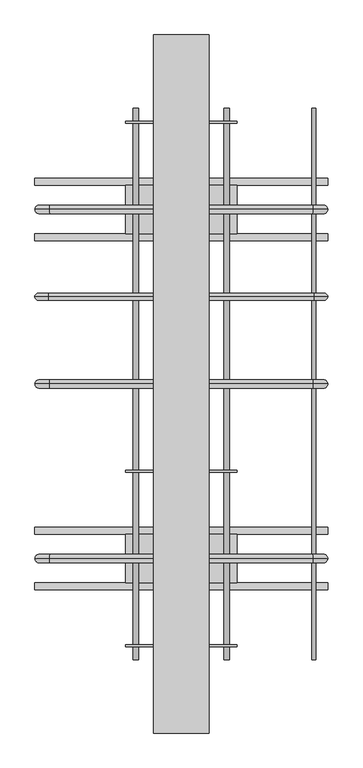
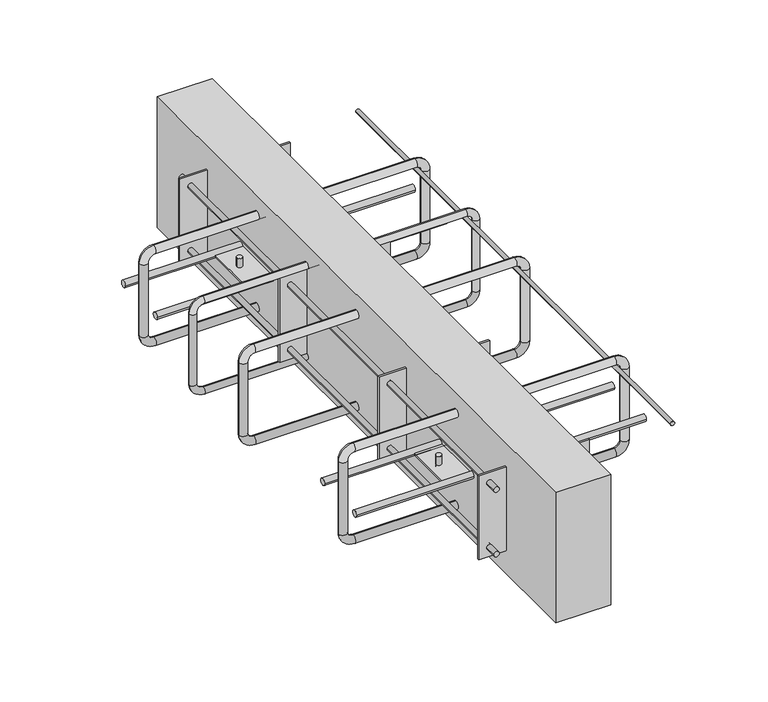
"""IFC4 building model written with IfcOpenShell, lengths in millimetres: proxy geometry, ACINOXplus_Typenreihe_Ux-Ox : OC+ S2."""

from ifc_helpers import new_model, si_unit, point, frame, frame_2d, origin, place, context, project, spatial, polyline, circle_curve, ellipse_curve, trimmed, segment, composite_curve, outline, extrude, source, transform, mapped, element, save
from ifc_brep_helpers import cylinder_surface, revolved_surface, advanced_brep


def generic_models_fb9e2122(model_context):
    return source(origin(), model_context, "Body", "SolidModel", [
        advanced_brep(
        [(189.0, 0.0, -35.5), (189.0, 0.0, -23.5), (-189.0, 0.0, -23.5), (-189.0, 0.0, -35.5), (-198.0, 0.0, -44.5), (-210.0, 0.0, -44.5), (-210.0, 0.0, -155.5), (-198.0, 0.0, -155.5), (-189.0, 0.0, -164.5), (-189.0, 0.0, -176.5), (189.0, 0.0, -176.5), (189.0, 0.0, -164.5), (198.0, 0.0, -155.5), (210.0, 0.0, -155.5), (210.0, 0.0, -44.5), (198.0, 0.0, -44.5)],
        [
            (0, 1, circle_curve(frame((189.0, 0.0, -29.5), z_axis=(-1.0, 0.0, 0.0), x_axis=(0.0, 0.0, -1.0)), 6.0)),
            (1, 2),
            (2, 3, circle_curve(frame((-189.0, 0.0, -29.5), z_axis=(1.0, 0.0, 0.0), x_axis=(0.0, 0.0, -1.0)), 6.0)),
            (3, 0),
            (1, 0, circle_curve(frame((189.0, 0.0, -29.5), z_axis=(-1.0, 0.0, 0.0), x_axis=(0.0, 0.0, -1.0)), 6.0)),
            (3, 2, circle_curve(frame((-189.0, 0.0, -29.5), z_axis=(1.0, 0.0, 0.0), x_axis=(0.0, 0.0, -1.0)), 6.0)),
            (4, 3, circle_curve(frame((-189.0, 0.0, -44.5), z_axis=(0.0, 1.0, 0.0), x_axis=(0.0, 0.0, 1.0)), 9.0)),
            (2, 5, circle_curve(frame((-189.0, 0.0, -44.5), z_axis=(0.0, -1.0, 0.0), x_axis=(0.0, 0.0, 1.0)), 21.0)),
            (5, 4, circle_curve(frame((-204.0, 0.0, -44.5), z_axis=(0.0, 0.0, 1.0), x_axis=(1.0, 0.0, 0.0)), 6.0)),
            (4, 5, circle_curve(frame((-204.0, 0.0, -44.5), z_axis=(0.0, 0.0, 1.0), x_axis=(1.0, 0.0, 0.0)), 6.0)),
            (5, 6),
            (6, 7, circle_curve(frame((-204.0, 0.0, -155.5), z_axis=(0.0, 0.0, 1.0), x_axis=(1.0, 0.0, 0.0)), 6.0)),
            (7, 4),
            (7, 6, circle_curve(frame((-204.0, 0.0, -155.5), z_axis=(0.0, 0.0, 1.0), x_axis=(1.0, 0.0, 0.0)), 6.0)),
            (8, 7, circle_curve(frame((-189.0, 0.0, -155.5), z_axis=(0.0, 1.0, 0.0), x_axis=(-1.0, 0.0, 0.0)), 9.0)),
            (6, 9, circle_curve(frame((-189.0, 0.0, -155.5), z_axis=(0.0, -1.0, 0.0), x_axis=(-1.0, 0.0, 0.0)), 21.0)),
            (9, 8, circle_curve(frame((-189.0, 0.0, -170.5), z_axis=(-1.0, 0.0, 0.0), x_axis=(0.0, 0.0, 1.0)), 6.0)),
            (8, 9, circle_curve(frame((-189.0, 0.0, -170.5), z_axis=(-1.0, 0.0, 0.0), x_axis=(0.0, 0.0, 1.0)), 6.0)),
            (9, 10),
            (10, 11, circle_curve(frame((189.0, 0.0, -170.5), z_axis=(-1.0, 0.0, 0.0), x_axis=(0.0, 0.0, 1.0)), 6.0)),
            (11, 8),
            (11, 10, circle_curve(frame((189.0, 0.0, -170.5), z_axis=(-1.0, 0.0, 0.0), x_axis=(0.0, 0.0, 1.0)), 6.0)),
            (12, 11, circle_curve(frame((189.0, 0.0, -155.5), z_axis=(0.0, 1.0, 0.0), x_axis=(0.0, 0.0, -1.0)), 9.0)),
            (10, 13, circle_curve(frame((189.0, 0.0, -155.5), z_axis=(0.0, -1.0, 0.0), x_axis=(0.0, 0.0, -1.0)), 21.0)),
            (13, 12, circle_curve(frame((204.0, 0.0, -155.5), z_axis=(0.0, 0.0, -1.0), x_axis=(-1.0, 0.0, 0.0)), 6.0)),
            (12, 13, circle_curve(frame((204.0, 0.0, -155.5), z_axis=(0.0, 0.0, -1.0), x_axis=(-1.0, 0.0, 0.0)), 6.0)),
            (13, 14),
            (14, 15, circle_curve(frame((204.0, 0.0, -44.5), z_axis=(0.0, 0.0, -1.0), x_axis=(-1.0, 0.0, 0.0)), 6.0)),
            (15, 12),
            (15, 14, circle_curve(frame((204.0, 0.0, -44.5), z_axis=(0.0, 0.0, -1.0), x_axis=(-1.0, 0.0, 0.0)), 6.0)),
            (0, 15, circle_curve(frame((189.0, 0.0, -44.5), z_axis=(0.0, 1.0, 0.0), x_axis=(1.0, 0.0, 0.0)), 9.0)),
            (14, 1, circle_curve(frame((189.0, 0.0, -44.5), z_axis=(0.0, -1.0, 0.0), x_axis=(1.0, 0.0, 0.0)), 21.0)),
        ],
        [
            cylinder_surface(frame((189.0, 0.0, -29.5), z_axis=(1.0, 0.0, 0.0), x_axis=(0.0, 0.0, -1.0)), 6.0),
            revolved_surface(trimmed(ellipse_curve(frame((-189.0, 0.0, -29.5), z_axis=(1.0, 0.0, 0.0), x_axis=(0.0, 0.0, -1.0)), 6.0, 6.0), [point((-189.0, 0.0, -23.5))], [point((-189.0, 0.0, -35.5))], True, "CARTESIAN"), (-189.0, 0.0, -44.5), (0.0, -1.0, 0.0)),
            revolved_surface(trimmed(ellipse_curve(frame((-189.0, 0.0, -29.5), z_axis=(1.0, 0.0, 0.0), x_axis=(0.0, 0.0, -1.0)), 6.0, 6.0), [point((-189.0, 0.0, -35.5))], [point((-189.0, 0.0, -23.5))], True, "CARTESIAN"), (-189.0, 0.0, -44.5), (0.0, -1.0, 0.0)),
            cylinder_surface(frame((-204.0, 0.0, -44.5), z_axis=(0.0, 0.0, 1.0), x_axis=(1.0, 0.0, 0.0)), 6.0),
            revolved_surface(trimmed(ellipse_curve(frame((-204.0, 0.0, -155.5), z_axis=(0.0, 0.0, 1.0), x_axis=(1.0, 0.0, 0.0)), 6.0, 6.0), [point((-210.0, 0.0, -155.5))], [point((-198.0, 0.0, -155.5))], True, "CARTESIAN"), (-189.0, 0.0, -155.5), (0.0, -1.0, 0.0)),
            revolved_surface(trimmed(ellipse_curve(frame((-204.0, 0.0, -155.5), z_axis=(0.0, 0.0, 1.0), x_axis=(1.0, 0.0, 0.0)), 6.0, 6.0), [point((-198.0, 0.0, -155.5))], [point((-210.0, 0.0, -155.5))], True, "CARTESIAN"), (-189.0, 0.0, -155.5), (0.0, -1.0, 0.0)),
            cylinder_surface(frame((-189.0, 0.0, -170.5), z_axis=(-1.0, 0.0, 0.0), x_axis=(0.0, 0.0, 1.0)), 6.0),
            revolved_surface(trimmed(ellipse_curve(frame((189.0, 0.0, -170.5), z_axis=(-1.0, 0.0, 0.0), x_axis=(0.0, 0.0, 1.0)), 6.0, 6.0), [point((189.0, 0.0, -176.5))], [point((189.0, 0.0, -164.5))], True, "CARTESIAN"), (189.0, 0.0, -155.5), (0.0, -1.0, 0.0)),
            revolved_surface(trimmed(ellipse_curve(frame((189.0, 0.0, -170.5), z_axis=(-1.0, 0.0, 0.0), x_axis=(0.0, 0.0, 1.0)), 6.0, 6.0), [point((189.0, 0.0, -164.5))], [point((189.0, 0.0, -176.5))], True, "CARTESIAN"), (189.0, 0.0, -155.5), (0.0, -1.0, 0.0)),
            cylinder_surface(frame((204.0, 0.0, -155.5), z_axis=(0.0, 0.0, -1.0), x_axis=(-1.0, 0.0, 0.0)), 6.0),
            revolved_surface(trimmed(ellipse_curve(frame((204.0, 0.0, -44.5), z_axis=(0.0, 0.0, -1.0), x_axis=(-1.0, 0.0, 0.0)), 6.0, 6.0), [point((210.0, 0.0, -44.5))], [point((198.0, 0.0, -44.5))], True, "CARTESIAN"), (189.0, 0.0, -44.5), (0.0, -1.0, 0.0)),
            revolved_surface(trimmed(ellipse_curve(frame((204.0, 0.0, -44.5), z_axis=(0.0, 0.0, -1.0), x_axis=(-1.0, 0.0, 0.0)), 6.0, 6.0), [point((198.0, 0.0, -44.5))], [point((210.0, 0.0, -44.5))], True, "CARTESIAN"), (189.0, 0.0, -44.5), (0.0, -1.0, 0.0)),
        ],
        [
            (0, [[1, 2, 3, 4]]),
            (0, [[5, -4, 6, -2]]),
            (1, [[7, -3, 8, 9]]),
            (2, [[-8, -6, -7, 10]]),
            (3, [[-9, 11, 12, 13]]),
            (3, [[-10, -13, 14, -11]]),
            (4, [[15, -12, 16, 17]]),
            (5, [[-16, -14, -15, 18]]),
            (6, [[-17, 19, 20, 21]]),
            (6, [[-18, -21, 22, -19]]),
            (7, [[23, -20, 24, 25]]),
            (8, [[-24, -22, -23, 26]]),
            (9, [[-25, 27, 28, 29]]),
            (9, [[-26, -29, 30, -27]]),
            (10, [[31, -28, 32, -1]]),
            (11, [[-32, -30, -31, -5]]),
        ],
    ),
        advanced_brep(
        [(189.0, 250.0, -35.5), (189.0, 250.0, -23.5), (-189.0, 250.0, -23.5), (-189.0, 250.0, -35.5), (-198.0, 250.0, -44.5), (-210.0, 250.0, -44.5), (-210.0, 250.0, -155.5), (-198.0, 250.0, -155.5), (-189.0, 250.0, -164.5), (-189.0, 250.0, -176.5), (189.0, 250.0, -176.5), (189.0, 250.0, -164.5), (198.0, 250.0, -155.5), (210.0, 250.0, -155.5), (210.0, 250.0, -44.5), (198.0, 250.0, -44.5)],
        [
            (0, 1, circle_curve(frame((189.0, 250.0, -29.5), z_axis=(-1.0, 0.0, 0.0), x_axis=(0.0, 0.0, -1.0)), 6.0)),
            (1, 2),
            (2, 3, circle_curve(frame((-189.0, 250.0, -29.5), z_axis=(1.0, 0.0, 0.0), x_axis=(0.0, 0.0, -1.0)), 6.0)),
            (3, 0),
            (1, 0, circle_curve(frame((189.0, 250.0, -29.5), z_axis=(-1.0, 0.0, 0.0), x_axis=(0.0, 0.0, -1.0)), 6.0)),
            (3, 2, circle_curve(frame((-189.0, 250.0, -29.5), z_axis=(1.0, 0.0, 0.0), x_axis=(0.0, 0.0, -1.0)), 6.0)),
            (4, 3, circle_curve(frame((-189.0, 250.0, -44.5), z_axis=(0.0, 1.0, 0.0), x_axis=(0.0, 0.0, 1.0)), 9.0)),
            (2, 5, circle_curve(frame((-189.0, 250.0, -44.5), z_axis=(0.0, -1.0, 0.0), x_axis=(0.0, 0.0, 1.0)), 21.0)),
            (5, 4, circle_curve(frame((-204.0, 250.0, -44.5), z_axis=(0.0, 0.0, 1.0), x_axis=(1.0, 0.0, 0.0)), 6.0)),
            (4, 5, circle_curve(frame((-204.0, 250.0, -44.5), z_axis=(0.0, 0.0, 1.0), x_axis=(1.0, 0.0, 0.0)), 6.0)),
            (5, 6),
            (6, 7, circle_curve(frame((-204.0, 250.0, -155.5), z_axis=(0.0, 0.0, 1.0), x_axis=(1.0, 0.0, 0.0)), 6.0)),
            (7, 4),
            (7, 6, circle_curve(frame((-204.0, 250.0, -155.5), z_axis=(0.0, 0.0, 1.0), x_axis=(1.0, 0.0, 0.0)), 6.0)),
            (8, 7, circle_curve(frame((-189.0, 250.0, -155.5), z_axis=(0.0, 1.0, 0.0), x_axis=(-1.0, 0.0, 0.0)), 9.0)),
            (6, 9, circle_curve(frame((-189.0, 250.0, -155.5), z_axis=(0.0, -1.0, 0.0), x_axis=(-1.0, 0.0, 0.0)), 21.0)),
            (9, 8, circle_curve(frame((-189.0, 250.0, -170.5), z_axis=(-1.0, 0.0, 0.0), x_axis=(0.0, 0.0, 1.0)), 6.0)),
            (8, 9, circle_curve(frame((-189.0, 250.0, -170.5), z_axis=(-1.0, 0.0, 0.0), x_axis=(0.0, 0.0, 1.0)), 6.0)),
            (9, 10),
            (10, 11, circle_curve(frame((189.0, 250.0, -170.5), z_axis=(-1.0, 0.0, 0.0), x_axis=(0.0, 0.0, 1.0)), 6.0)),
            (11, 8),
            (11, 10, circle_curve(frame((189.0, 250.0, -170.5), z_axis=(-1.0, 0.0, 0.0), x_axis=(0.0, 0.0, 1.0)), 6.0)),
            (12, 11, circle_curve(frame((189.0, 250.0, -155.5), z_axis=(0.0, 1.0, 0.0), x_axis=(0.0, 0.0, -1.0)), 9.0)),
            (10, 13, circle_curve(frame((189.0, 250.0, -155.5), z_axis=(0.0, -1.0, 0.0), x_axis=(0.0, 0.0, -1.0)), 21.0)),
            (13, 12, circle_curve(frame((204.0, 250.0, -155.5), z_axis=(0.0, 0.0, -1.0), x_axis=(-1.0, 0.0, 0.0)), 6.0)),
            (12, 13, circle_curve(frame((204.0, 250.0, -155.5), z_axis=(0.0, 0.0, -1.0), x_axis=(-1.0, 0.0, 0.0)), 6.0)),
            (13, 14),
            (14, 15, circle_curve(frame((204.0, 250.0, -44.5), z_axis=(0.0, 0.0, -1.0), x_axis=(-1.0, 0.0, 0.0)), 6.0)),
            (15, 12),
            (15, 14, circle_curve(frame((204.0, 250.0, -44.5), z_axis=(0.0, 0.0, -1.0), x_axis=(-1.0, 0.0, 0.0)), 6.0)),
            (0, 15, circle_curve(frame((189.0, 250.0, -44.5), z_axis=(0.0, 1.0, 0.0), x_axis=(1.0, 0.0, 0.0)), 9.0)),
            (14, 1, circle_curve(frame((189.0, 250.0, -44.5), z_axis=(0.0, -1.0, 0.0), x_axis=(1.0, 0.0, 0.0)), 21.0)),
        ],
        [
            cylinder_surface(frame((189.0, 250.0, -29.5), z_axis=(1.0, 0.0, 0.0), x_axis=(0.0, 0.0, -1.0)), 6.0),
            revolved_surface(trimmed(ellipse_curve(frame((-189.0, 250.0, -29.5), z_axis=(1.0, 0.0, 0.0), x_axis=(0.0, 0.0, -1.0)), 6.0, 6.0), [point((-189.0, 250.0, -23.5))], [point((-189.0, 250.0, -35.5))], True, "CARTESIAN"), (-189.0, 250.0, -44.5), (0.0, -1.0, 0.0)),
            revolved_surface(trimmed(ellipse_curve(frame((-189.0, 250.0, -29.5), z_axis=(1.0, 0.0, 0.0), x_axis=(0.0, 0.0, -1.0)), 6.0, 6.0), [point((-189.0, 250.0, -35.5))], [point((-189.0, 250.0, -23.5))], True, "CARTESIAN"), (-189.0, 250.0, -44.5), (0.0, -1.0, 0.0)),
            cylinder_surface(frame((-204.0, 250.0, -44.5), z_axis=(0.0, 0.0, 1.0), x_axis=(1.0, 0.0, 0.0)), 6.0),
            revolved_surface(trimmed(ellipse_curve(frame((-204.0, 250.0, -155.5), z_axis=(0.0, 0.0, 1.0), x_axis=(1.0, 0.0, 0.0)), 6.0, 6.0), [point((-210.0, 250.0, -155.5))], [point((-198.0, 250.0, -155.5))], True, "CARTESIAN"), (-189.0, 250.0, -155.5), (0.0, -1.0, 0.0)),
            revolved_surface(trimmed(ellipse_curve(frame((-204.0, 250.0, -155.5), z_axis=(0.0, 0.0, 1.0), x_axis=(1.0, 0.0, 0.0)), 6.0, 6.0), [point((-198.0, 250.0, -155.5))], [point((-210.0, 250.0, -155.5))], True, "CARTESIAN"), (-189.0, 250.0, -155.5), (0.0, -1.0, 0.0)),
            cylinder_surface(frame((-189.0, 250.0, -170.5), z_axis=(-1.0, 0.0, 0.0), x_axis=(0.0, 0.0, 1.0)), 6.0),
            revolved_surface(trimmed(ellipse_curve(frame((189.0, 250.0, -170.5), z_axis=(-1.0, 0.0, 0.0), x_axis=(0.0, 0.0, 1.0)), 6.0, 6.0), [point((189.0, 250.0, -176.5))], [point((189.0, 250.0, -164.5))], True, "CARTESIAN"), (189.0, 250.0, -155.5), (0.0, -1.0, 0.0)),
            revolved_surface(trimmed(ellipse_curve(frame((189.0, 250.0, -170.5), z_axis=(-1.0, 0.0, 0.0), x_axis=(0.0, 0.0, 1.0)), 6.0, 6.0), [point((189.0, 250.0, -164.5))], [point((189.0, 250.0, -176.5))], True, "CARTESIAN"), (189.0, 250.0, -155.5), (0.0, -1.0, 0.0)),
            cylinder_surface(frame((204.0, 250.0, -155.5), z_axis=(0.0, 0.0, -1.0), x_axis=(-1.0, 0.0, 0.0)), 6.0),
            revolved_surface(trimmed(ellipse_curve(frame((204.0, 250.0, -44.5), z_axis=(0.0, 0.0, -1.0), x_axis=(-1.0, 0.0, 0.0)), 6.0, 6.0), [point((210.0, 250.0, -44.5))], [point((198.0, 250.0, -44.5))], True, "CARTESIAN"), (189.0, 250.0, -44.5), (0.0, -1.0, 0.0)),
            revolved_surface(trimmed(ellipse_curve(frame((204.0, 250.0, -44.5), z_axis=(0.0, 0.0, -1.0), x_axis=(-1.0, 0.0, 0.0)), 6.0, 6.0), [point((198.0, 250.0, -44.5))], [point((210.0, 250.0, -44.5))], True, "CARTESIAN"), (189.0, 250.0, -44.5), (0.0, -1.0, 0.0)),
        ],
        [
            (0, [[1, 2, 3, 4]]),
            (0, [[5, -4, 6, -2]]),
            (1, [[7, -3, 8, 9]]),
            (2, [[-8, -6, -7, 10]]),
            (3, [[-9, 11, 12, 13]]),
            (3, [[-10, -13, 14, -11]]),
            (4, [[15, -12, 16, 17]]),
            (5, [[-16, -14, -15, 18]]),
            (6, [[-17, 19, 20, 21]]),
            (6, [[-18, -21, 22, -19]]),
            (7, [[23, -20, 24, 25]]),
            (8, [[-24, -22, -23, 26]]),
            (9, [[-25, 27, 28, 29]]),
            (9, [[-26, -29, 30, -27]]),
            (10, [[31, -28, 32, -1]]),
            (11, [[-32, -30, -31, -5]]),
        ],
    ),
        advanced_brep(
        [(189.0, -250.0, -35.5), (189.0, -250.0, -23.5), (-189.0, -250.0, -23.5), (-189.0, -250.0, -35.5), (-198.0, -250.0, -44.5), (-210.0, -250.0, -44.5), (-210.0, -250.0, -155.5), (-198.0, -250.0, -155.5), (-189.0, -250.0, -164.5), (-189.0, -250.0, -176.5), (189.0, -250.0, -176.5), (189.0, -250.0, -164.5), (198.0, -250.0, -155.5), (210.0, -250.0, -155.5), (210.0, -250.0, -44.5), (198.0, -250.0, -44.5)],
        [
            (0, 1, circle_curve(frame((189.0, -250.0, -29.5), z_axis=(-1.0, 0.0, 0.0), x_axis=(0.0, 0.0, -1.0)), 6.0)),
            (1, 2),
            (2, 3, circle_curve(frame((-189.0, -250.0, -29.5), z_axis=(1.0, 0.0, 0.0), x_axis=(0.0, 0.0, -1.0)), 6.0)),
            (3, 0),
            (1, 0, circle_curve(frame((189.0, -250.0, -29.5), z_axis=(-1.0, 0.0, 0.0), x_axis=(0.0, 0.0, -1.0)), 6.0)),
            (3, 2, circle_curve(frame((-189.0, -250.0, -29.5), z_axis=(1.0, 0.0, 0.0), x_axis=(0.0, 0.0, -1.0)), 6.0)),
            (4, 3, circle_curve(frame((-189.0, -250.0, -44.5), z_axis=(0.0, 1.0, 0.0), x_axis=(0.0, 0.0, 1.0)), 9.0)),
            (2, 5, circle_curve(frame((-189.0, -250.0, -44.5), z_axis=(0.0, -1.0, 0.0), x_axis=(0.0, 0.0, 1.0)), 21.0)),
            (5, 4, circle_curve(frame((-204.0, -250.0, -44.5), z_axis=(0.0, 0.0, 1.0), x_axis=(1.0, 0.0, 0.0)), 6.0)),
            (4, 5, circle_curve(frame((-204.0, -250.0, -44.5), z_axis=(0.0, 0.0, 1.0), x_axis=(1.0, 0.0, 0.0)), 6.0)),
            (5, 6),
            (6, 7, circle_curve(frame((-204.0, -250.0, -155.5), z_axis=(0.0, 0.0, 1.0), x_axis=(1.0, 0.0, 0.0)), 6.0)),
            (7, 4),
            (7, 6, circle_curve(frame((-204.0, -250.0, -155.5), z_axis=(0.0, 0.0, 1.0), x_axis=(1.0, 0.0, 0.0)), 6.0)),
            (8, 7, circle_curve(frame((-189.0, -250.0, -155.5), z_axis=(0.0, 1.0, 0.0), x_axis=(-1.0, 0.0, 0.0)), 9.0)),
            (6, 9, circle_curve(frame((-189.0, -250.0, -155.5), z_axis=(0.0, -1.0, 0.0), x_axis=(-1.0, 0.0, 0.0)), 21.0)),
            (9, 8, circle_curve(frame((-189.0, -250.0, -170.5), z_axis=(-1.0, 0.0, 0.0), x_axis=(0.0, 0.0, 1.0)), 6.0)),
            (8, 9, circle_curve(frame((-189.0, -250.0, -170.5), z_axis=(-1.0, 0.0, 0.0), x_axis=(0.0, 0.0, 1.0)), 6.0)),
            (9, 10),
            (10, 11, circle_curve(frame((189.0, -250.0, -170.5), z_axis=(-1.0, 0.0, 0.0), x_axis=(0.0, 0.0, 1.0)), 6.0)),
            (11, 8),
            (11, 10, circle_curve(frame((189.0, -250.0, -170.5), z_axis=(-1.0, 0.0, 0.0), x_axis=(0.0, 0.0, 1.0)), 6.0)),
            (12, 11, circle_curve(frame((189.0, -250.0, -155.5), z_axis=(0.0, 1.0, 0.0), x_axis=(0.0, 0.0, -1.0)), 9.0)),
            (10, 13, circle_curve(frame((189.0, -250.0, -155.5), z_axis=(0.0, -1.0, 0.0), x_axis=(0.0, 0.0, -1.0)), 21.0)),
            (13, 12, circle_curve(frame((204.0, -250.0, -155.5), z_axis=(0.0, 0.0, -1.0), x_axis=(-1.0, 0.0, 0.0)), 6.0)),
            (12, 13, circle_curve(frame((204.0, -250.0, -155.5), z_axis=(0.0, 0.0, -1.0), x_axis=(-1.0, 0.0, 0.0)), 6.0)),
            (13, 14),
            (14, 15, circle_curve(frame((204.0, -250.0, -44.5), z_axis=(0.0, 0.0, -1.0), x_axis=(-1.0, 0.0, 0.0)), 6.0)),
            (15, 12),
            (15, 14, circle_curve(frame((204.0, -250.0, -44.5), z_axis=(0.0, 0.0, -1.0), x_axis=(-1.0, 0.0, 0.0)), 6.0)),
            (0, 15, circle_curve(frame((189.0, -250.0, -44.5), z_axis=(0.0, 1.0, 0.0), x_axis=(1.0, 0.0, 0.0)), 9.0)),
            (14, 1, circle_curve(frame((189.0, -250.0, -44.5), z_axis=(0.0, -1.0, 0.0), x_axis=(1.0, 0.0, 0.0)), 21.0)),
        ],
        [
            cylinder_surface(frame((189.0, -250.0, -29.5), z_axis=(1.0, 0.0, 0.0), x_axis=(0.0, 0.0, -1.0)), 6.0),
            revolved_surface(trimmed(ellipse_curve(frame((-189.0, -250.0, -29.5), z_axis=(1.0, 0.0, 0.0), x_axis=(0.0, 0.0, -1.0)), 6.0, 6.0), [point((-189.0, -250.0, -23.5))], [point((-189.0, -250.0, -35.5))], True, "CARTESIAN"), (-189.0, -250.0, -44.5), (0.0, -1.0, 0.0)),
            revolved_surface(trimmed(ellipse_curve(frame((-189.0, -250.0, -29.5), z_axis=(1.0, 0.0, 0.0), x_axis=(0.0, 0.0, -1.0)), 6.0, 6.0), [point((-189.0, -250.0, -35.5))], [point((-189.0, -250.0, -23.5))], True, "CARTESIAN"), (-189.0, -250.0, -44.5), (0.0, -1.0, 0.0)),
            cylinder_surface(frame((-204.0, -250.0, -44.5), z_axis=(0.0, 0.0, 1.0), x_axis=(1.0, 0.0, 0.0)), 6.0),
            revolved_surface(trimmed(ellipse_curve(frame((-204.0, -250.0, -155.5), z_axis=(0.0, 0.0, 1.0), x_axis=(1.0, 0.0, 0.0)), 6.0, 6.0), [point((-210.0, -250.0, -155.5))], [point((-198.0, -250.0, -155.5))], True, "CARTESIAN"), (-189.0, -250.0, -155.5), (0.0, -1.0, 0.0)),
            revolved_surface(trimmed(ellipse_curve(frame((-204.0, -250.0, -155.5), z_axis=(0.0, 0.0, 1.0), x_axis=(1.0, 0.0, 0.0)), 6.0, 6.0), [point((-198.0, -250.0, -155.5))], [point((-210.0, -250.0, -155.5))], True, "CARTESIAN"), (-189.0, -250.0, -155.5), (0.0, -1.0, 0.0)),
            cylinder_surface(frame((-189.0, -250.0, -170.5), z_axis=(-1.0, 0.0, 0.0), x_axis=(0.0, 0.0, 1.0)), 6.0),
            revolved_surface(trimmed(ellipse_curve(frame((189.0, -250.0, -170.5), z_axis=(-1.0, 0.0, 0.0), x_axis=(0.0, 0.0, 1.0)), 6.0, 6.0), [point((189.0, -250.0, -176.5))], [point((189.0, -250.0, -164.5))], True, "CARTESIAN"), (189.0, -250.0, -155.5), (0.0, -1.0, 0.0)),
            revolved_surface(trimmed(ellipse_curve(frame((189.0, -250.0, -170.5), z_axis=(-1.0, 0.0, 0.0), x_axis=(0.0, 0.0, 1.0)), 6.0, 6.0), [point((189.0, -250.0, -164.5))], [point((189.0, -250.0, -176.5))], True, "CARTESIAN"), (189.0, -250.0, -155.5), (0.0, -1.0, 0.0)),
            cylinder_surface(frame((204.0, -250.0, -155.5), z_axis=(0.0, 0.0, -1.0), x_axis=(-1.0, 0.0, 0.0)), 6.0),
            revolved_surface(trimmed(ellipse_curve(frame((204.0, -250.0, -44.5), z_axis=(0.0, 0.0, -1.0), x_axis=(-1.0, 0.0, 0.0)), 6.0, 6.0), [point((210.0, -250.0, -44.5))], [point((198.0, -250.0, -44.5))], True, "CARTESIAN"), (189.0, -250.0, -44.5), (0.0, -1.0, 0.0)),
            revolved_surface(trimmed(ellipse_curve(frame((204.0, -250.0, -44.5), z_axis=(0.0, 0.0, -1.0), x_axis=(-1.0, 0.0, 0.0)), 6.0, 6.0), [point((198.0, -250.0, -44.5))], [point((210.0, -250.0, -44.5))], True, "CARTESIAN"), (189.0, -250.0, -44.5), (0.0, -1.0, 0.0)),
        ],
        [
            (0, [[1, 2, 3, 4]]),
            (0, [[5, -4, 6, -2]]),
            (1, [[7, -3, 8, 9]]),
            (2, [[-8, -6, -7, 10]]),
            (3, [[-9, 11, 12, 13]]),
            (3, [[-10, -13, 14, -11]]),
            (4, [[15, -12, 16, 17]]),
            (5, [[-16, -14, -15, 18]]),
            (6, [[-17, 19, 20, 21]]),
            (6, [[-18, -21, 22, -19]]),
            (7, [[23, -20, 24, 25]]),
            (8, [[-24, -22, -23, 26]]),
            (9, [[-25, 27, 28, 29]]),
            (9, [[-26, -29, 30, -27]]),
            (10, [[31, -28, 32, -1]]),
            (11, [[-32, -30, -31, -5]]),
        ],
    ),
        extrude(outline(composite_curve([segment(trimmed(circle_curve(frame_2d((-38.5, 190.0)), 3.0), [point((-38.5, 193.0))], [point((-38.5, 187.0))], False, "CARTESIAN"), True, "CONTINUOUS"), segment(trimmed(circle_curve(frame_2d((-38.5, 190.0)), 3.0), [point((-38.5, 187.0))], [point((-38.5, 193.0))], False, "CARTESIAN"), True, "CONTINUOUS")], self_intersect=False)), frame((0.0, -395.0, 0.0), z_axis=(0.0, 1.0, 0.0), x_axis=(0.0, 0.0, 1.0)), (0.0, 0.0, 1.0), 790.0),
        extrude(outline(composite_curve([segment(trimmed(circle_curve(frame_2d((-290.0, -100.0)), 5.0), [point((-295.0, -100.0))], [point((-285.0, -100.0))], False, "CARTESIAN"), True, "CONTINUOUS"), segment(trimmed(circle_curve(frame_2d((-290.0, -100.0)), 5.0), [point((-285.0, -100.0))], [point((-295.0, -100.0))], False, "CARTESIAN"), True, "CONTINUOUS")], self_intersect=False)), frame((-210.0, 0.0, 0.0), z_axis=(1.0, 0.0, 0.0), x_axis=(0.0, 1.0, 0.0)), (0.0, 0.0, 1.0), 420.0),
        extrude(outline(composite_curve([segment(trimmed(circle_curve(frame_2d((-210.0, -100.0)), 5.0), [point((-215.0, -100.0))], [point((-205.0, -100.0))], False, "CARTESIAN"), True, "CONTINUOUS"), segment(trimmed(circle_curve(frame_2d((-210.0, -100.0)), 5.0), [point((-205.0, -100.0))], [point((-215.0, -100.0))], False, "CARTESIAN"), True, "CONTINUOUS")], self_intersect=False)), frame((-210.0, 0.0, 0.0), z_axis=(1.0, 0.0, 0.0), x_axis=(0.0, 1.0, 0.0)), (0.0, 0.0, 1.0), 420.0),
        extrude(outline(composite_curve([segment(trimmed(circle_curve(frame_2d((-65.0, -250.0)), 4.0), [point((-61.0, -250.0))], [point((-69.0, -250.0))], False, "CARTESIAN"), True, "CONTINUOUS"), segment(trimmed(circle_curve(frame_2d((-65.0, -250.0)), 4.0), [point((-69.0, -250.0))], [point((-61.0, -250.0))], False, "CARTESIAN"), True, "CONTINUOUS")], self_intersect=False)), frame((0.0, 0.0, -98.5), z_axis=(0.0, 0.0, 1.0), x_axis=(1.0, 0.0, 0.0)), (0.0, 0.0, 1.0), 13.5),
        extrude(outline(composite_curve([segment(trimmed(circle_curve(frame_2d((65.0, -250.0)), 4.0), [point((69.0, -250.0))], [point((61.0, -250.0))], False, "CARTESIAN"), True, "CONTINUOUS"), segment(trimmed(circle_curve(frame_2d((65.0, -250.0)), 4.0), [point((61.0, -250.0))], [point((69.0, -250.0))], False, "CARTESIAN"), True, "CONTINUOUS")], self_intersect=False)), frame((0.0, 0.0, -98.5), z_axis=(0.0, 0.0, 1.0), x_axis=(1.0, 0.0, 0.0)), (0.0, 0.0, 1.0), 13.5),
        extrude(outline(composite_curve([segment(trimmed(circle_curve(frame_2d((-65.0, -250.0)), 4.0), [point((-69.0, -250.0))], [point((-61.0, -250.0))], False, "CARTESIAN"), True, "CONTINUOUS"), segment(trimmed(circle_curve(frame_2d((-65.0, -250.0)), 4.0), [point((-61.0, -250.0))], [point((-69.0, -250.0))], False, "CARTESIAN"), True, "CONTINUOUS")], self_intersect=False)), frame((0.0, 0.0, -115.0), z_axis=(0.0, 0.0, 1.0), x_axis=(1.0, 0.0, 0.0)), (0.0, 0.0, 1.0), 13.5),
        extrude(outline(composite_curve([segment(trimmed(circle_curve(frame_2d((65.0, -250.0)), 4.0), [point((61.0, -250.0))], [point((69.0, -250.0))], False, "CARTESIAN"), True, "CONTINUOUS"), segment(trimmed(circle_curve(frame_2d((65.0, -250.0)), 4.0), [point((69.0, -250.0))], [point((61.0, -250.0))], False, "CARTESIAN"), True, "CONTINUOUS")], self_intersect=False)), frame((0.0, 0.0, -115.0), z_axis=(0.0, 0.0, 1.0), x_axis=(1.0, 0.0, 0.0)), (0.0, 0.0, 1.0), 13.5),
        extrude(outline(polyline([(80.0, -215.0), (80.0, -285.0), (-80.0, -285.0), (-80.0, -215.0), (80.0, -215.0)])), frame((0.0, 0.0, -101.5), z_axis=(0.0, 0.0, 1.0), x_axis=(1.0, 0.0, 0.0)), (0.0, 0.0, 1.0), 3.0),
        extrude(outline(composite_curve([segment(trimmed(circle_curve(frame_2d((210.0, -100.0)), 5.0), [point((205.0, -100.0))], [point((215.0, -100.0))], False, "CARTESIAN"), True, "CONTINUOUS"), segment(trimmed(circle_curve(frame_2d((210.0, -100.0)), 5.0), [point((215.0, -100.0))], [point((205.0, -100.0))], False, "CARTESIAN"), True, "CONTINUOUS")], self_intersect=False)), frame((-210.0, 0.0, 0.0), z_axis=(1.0, 0.0, 0.0), x_axis=(0.0, 1.0, 0.0)), (0.0, 0.0, 1.0), 420.0),
        extrude(outline(composite_curve([segment(trimmed(circle_curve(frame_2d((290.0, -100.0)), 5.0), [point((285.0, -100.0))], [point((295.0, -100.0))], False, "CARTESIAN"), True, "CONTINUOUS"), segment(trimmed(circle_curve(frame_2d((290.0, -100.0)), 5.0), [point((295.0, -100.0))], [point((285.0, -100.0))], False, "CARTESIAN"), True, "CONTINUOUS")], self_intersect=False)), frame((-210.0, 0.0, 0.0), z_axis=(1.0, 0.0, 0.0), x_axis=(0.0, 1.0, 0.0)), (0.0, 0.0, 1.0), 420.0),
        extrude(outline(composite_curve([segment(trimmed(circle_curve(frame_2d((-65.0, 250.0)), 4.0), [point((-61.0, 250.0))], [point((-69.0, 250.0))], False, "CARTESIAN"), True, "CONTINUOUS"), segment(trimmed(circle_curve(frame_2d((-65.0, 250.0)), 4.0), [point((-69.0, 250.0))], [point((-61.0, 250.0))], False, "CARTESIAN"), True, "CONTINUOUS")], self_intersect=False)), frame((0.0, 0.0, -98.5), z_axis=(0.0, 0.0, 1.0), x_axis=(1.0, 0.0, 0.0)), (0.0, 0.0, 1.0), 13.5),
        extrude(outline(composite_curve([segment(trimmed(circle_curve(frame_2d((65.0, 250.0)), 4.0), [point((69.0, 250.0))], [point((61.0, 250.0))], False, "CARTESIAN"), True, "CONTINUOUS"), segment(trimmed(circle_curve(frame_2d((65.0, 250.0)), 4.0), [point((61.0, 250.0))], [point((69.0, 250.0))], False, "CARTESIAN"), True, "CONTINUOUS")], self_intersect=False)), frame((0.0, 0.0, -98.5), z_axis=(0.0, 0.0, 1.0), x_axis=(1.0, 0.0, 0.0)), (0.0, 0.0, 1.0), 13.5),
        extrude(outline(composite_curve([segment(trimmed(circle_curve(frame_2d((-65.0, 250.0)), 4.0), [point((-69.0, 250.0))], [point((-61.0, 250.0))], False, "CARTESIAN"), True, "CONTINUOUS"), segment(trimmed(circle_curve(frame_2d((-65.0, 250.0)), 4.0), [point((-61.0, 250.0))], [point((-69.0, 250.0))], False, "CARTESIAN"), True, "CONTINUOUS")], self_intersect=False)), frame((0.0, 0.0, -115.0), z_axis=(0.0, 0.0, 1.0), x_axis=(1.0, 0.0, 0.0)), (0.0, 0.0, 1.0), 13.5),
        extrude(outline(composite_curve([segment(trimmed(circle_curve(frame_2d((65.0, 250.0)), 4.0), [point((61.0, 250.0))], [point((69.0, 250.0))], False, "CARTESIAN"), True, "CONTINUOUS"), segment(trimmed(circle_curve(frame_2d((65.0, 250.0)), 4.0), [point((69.0, 250.0))], [point((61.0, 250.0))], False, "CARTESIAN"), True, "CONTINUOUS")], self_intersect=False)), frame((0.0, 0.0, -115.0), z_axis=(0.0, 0.0, 1.0), x_axis=(1.0, 0.0, 0.0)), (0.0, 0.0, 1.0), 13.5),
        extrude(outline(polyline([(80.0, 285.0), (80.0, 215.0), (-80.0, 215.0), (-80.0, 285.0), (80.0, 285.0)])), frame((0.0, 0.0, -101.5), z_axis=(0.0, 0.0, 1.0), x_axis=(1.0, 0.0, 0.0)), (0.0, 0.0, 1.0), 3.0),
        extrude(outline(polyline([(40.0, 500.0), (40.0, -500.0), (-40.0, -500.0), (-40.0, 500.0), (40.0, 500.0)])), frame((0.0, 0.0, -200.0), z_axis=(0.0, 0.0, 1.0), x_axis=(1.0, 0.0, 0.0)), (0.0, 0.0, 1.0), 200.0),
        extrude(outline(polyline([(80.0, -123.5), (80.0, -126.5), (-80.0, -126.5), (-80.0, -123.5), (80.0, -123.5)])), frame((0.0, 0.0, -164.5), z_axis=(0.0, 0.0, 1.0), x_axis=(1.0, 0.0, 0.0)), (0.0, 0.0, 1.0), 129.0),
        extrude(outline(polyline([(80.0, 126.5), (80.0, 123.5), (-80.0, 123.5), (-80.0, 126.5), (80.0, 126.5)])), frame((0.0, 0.0, -164.5), z_axis=(0.0, 0.0, 1.0), x_axis=(1.0, 0.0, 0.0)), (0.0, 0.0, 1.0), 129.0),
        extrude(outline(polyline([(80.0, -373.5), (80.0, -376.5), (-80.0, -376.5), (-80.0, -373.5), (80.0, -373.5)])), frame((0.0, 0.0, -164.5), z_axis=(0.0, 0.0, 1.0), x_axis=(1.0, 0.0, 0.0)), (0.0, 0.0, 1.0), 129.0),
        extrude(outline(polyline([(80.0, 376.5), (80.0, 373.5), (-80.0, 373.5), (-80.0, 376.5), (80.0, 376.5)])), frame((0.0, 0.0, -164.5), z_axis=(0.0, 0.0, 1.0), x_axis=(1.0, 0.0, 0.0)), (0.0, 0.0, 1.0), 129.0),
        extrude(outline(composite_curve([segment(trimmed(circle_curve(frame_2d((-149.5, -65.0)), 4.0), [point((-149.5, -61.0))], [point((-149.5, -69.0))], False, "CARTESIAN"), True, "CONTINUOUS"), segment(trimmed(circle_curve(frame_2d((-149.5, -65.0)), 4.0), [point((-149.5, -69.0))], [point((-149.5, -61.0))], False, "CARTESIAN"), True, "CONTINUOUS")], self_intersect=False)), frame((0.0, -395.0, 0.0), z_axis=(0.0, 1.0, 0.0), x_axis=(0.0, 0.0, 1.0)), (0.0, 0.0, 1.0), 18.5),
        extrude(outline(composite_curve([segment(trimmed(circle_curve(frame_2d((-149.5, -65.0)), 4.0), [point((-149.5, -69.0))], [point((-149.5, -61.0))], False, "CARTESIAN"), True, "CONTINUOUS"), segment(trimmed(circle_curve(frame_2d((-149.5, -65.0)), 4.0), [point((-149.5, -61.0))], [point((-149.5, -69.0))], False, "CARTESIAN"), True, "CONTINUOUS")], self_intersect=False)), frame((0.0, -373.5, 0.0), z_axis=(0.0, 1.0, 0.0), x_axis=(0.0, 0.0, 1.0)), (0.0, 0.0, 1.0), 497.0),
        extrude(outline(composite_curve([segment(trimmed(circle_curve(frame_2d((-149.5, -65.0)), 4.0), [point((-149.5, -69.0))], [point((-149.5, -61.0))], False, "CARTESIAN"), True, "CONTINUOUS"), segment(trimmed(circle_curve(frame_2d((-149.5, -65.0)), 4.0), [point((-149.5, -61.0))], [point((-149.5, -69.0))], False, "CARTESIAN"), True, "CONTINUOUS")], self_intersect=False)), frame((0.0, 376.5, 0.0), z_axis=(0.0, 1.0, 0.0), x_axis=(0.0, 0.0, 1.0)), (0.0, 0.0, 1.0), 18.5),
        extrude(outline(composite_curve([segment(trimmed(circle_curve(frame_2d((-149.5, -65.0)), 4.0), [point((-149.5, -69.0))], [point((-149.5, -61.0))], False, "CARTESIAN"), True, "CONTINUOUS"), segment(trimmed(circle_curve(frame_2d((-149.5, -65.0)), 4.0), [point((-149.5, -61.0))], [point((-149.5, -69.0))], False, "CARTESIAN"), True, "CONTINUOUS")], self_intersect=False)), frame((0.0, 126.5, 0.0), z_axis=(0.0, 1.0, 0.0), x_axis=(0.0, 0.0, 1.0)), (0.0, 0.0, 1.0), 247.0),
        extrude(outline(composite_curve([segment(trimmed(circle_curve(frame_2d((-149.5, 65.0)), 4.0), [point((-149.5, 69.0))], [point((-149.5, 61.0))], False, "CARTESIAN"), True, "CONTINUOUS"), segment(trimmed(circle_curve(frame_2d((-149.5, 65.0)), 4.0), [point((-149.5, 61.0))], [point((-149.5, 69.0))], False, "CARTESIAN"), True, "CONTINUOUS")], self_intersect=False)), frame((0.0, -395.0, 0.0), z_axis=(0.0, 1.0, 0.0), x_axis=(0.0, 0.0, 1.0)), (0.0, 0.0, 1.0), 18.5),
        extrude(outline(composite_curve([segment(trimmed(circle_curve(frame_2d((-149.5, 65.0)), 4.0), [point((-149.5, 61.0))], [point((-149.5, 69.0))], False, "CARTESIAN"), True, "CONTINUOUS"), segment(trimmed(circle_curve(frame_2d((-149.5, 65.0)), 4.0), [point((-149.5, 69.0))], [point((-149.5, 61.0))], False, "CARTESIAN"), True, "CONTINUOUS")], self_intersect=False)), frame((0.0, -373.5, 0.0), z_axis=(0.0, 1.0, 0.0), x_axis=(0.0, 0.0, 1.0)), (0.0, 0.0, 1.0), 497.0),
        extrude(outline(composite_curve([segment(trimmed(circle_curve(frame_2d((-149.5, 65.0)), 4.0), [point((-149.5, 61.0))], [point((-149.5, 69.0))], False, "CARTESIAN"), True, "CONTINUOUS"), segment(trimmed(circle_curve(frame_2d((-149.5, 65.0)), 4.0), [point((-149.5, 69.0))], [point((-149.5, 61.0))], False, "CARTESIAN"), True, "CONTINUOUS")], self_intersect=False)), frame((0.0, 376.5, 0.0), z_axis=(0.0, 1.0, 0.0), x_axis=(0.0, 0.0, 1.0)), (0.0, 0.0, 1.0), 18.5),
        extrude(outline(composite_curve([segment(trimmed(circle_curve(frame_2d((-149.5, 65.0)), 4.0), [point((-149.5, 61.0))], [point((-149.5, 69.0))], False, "CARTESIAN"), True, "CONTINUOUS"), segment(trimmed(circle_curve(frame_2d((-149.5, 65.0)), 4.0), [point((-149.5, 69.0))], [point((-149.5, 61.0))], False, "CARTESIAN"), True, "CONTINUOUS")], self_intersect=False)), frame((0.0, 126.5, 0.0), z_axis=(0.0, 1.0, 0.0), x_axis=(0.0, 0.0, 1.0)), (0.0, 0.0, 1.0), 247.0),
        extrude(outline(composite_curve([segment(trimmed(circle_curve(frame_2d((-50.5, -65.0)), 4.0), [point((-50.5, -69.0))], [point((-50.5, -61.0))], False, "CARTESIAN"), True, "CONTINUOUS"), segment(trimmed(circle_curve(frame_2d((-50.5, -65.0)), 4.0), [point((-50.5, -61.0))], [point((-50.5, -69.0))], False, "CARTESIAN"), True, "CONTINUOUS")], self_intersect=False)), frame((0.0, 376.5, 0.0), z_axis=(0.0, 1.0, 0.0), x_axis=(0.0, 0.0, 1.0)), (0.0, 0.0, 1.0), 18.5),
        extrude(outline(composite_curve([segment(trimmed(circle_curve(frame_2d((-50.5, -65.0)), 4.0), [point((-50.5, -61.0))], [point((-50.5, -69.0))], False, "CARTESIAN"), True, "CONTINUOUS"), segment(trimmed(circle_curve(frame_2d((-50.5, -65.0)), 4.0), [point((-50.5, -69.0))], [point((-50.5, -61.0))], False, "CARTESIAN"), True, "CONTINUOUS")], self_intersect=False)), frame((0.0, -395.0, 0.0), z_axis=(0.0, 1.0, 0.0), x_axis=(0.0, 0.0, 1.0)), (0.0, 0.0, 1.0), 18.5),
        extrude(outline(composite_curve([segment(trimmed(circle_curve(frame_2d((-50.5, -65.0)), 4.0), [point((-50.5, -69.0))], [point((-50.5, -61.0))], False, "CARTESIAN"), True, "CONTINUOUS"), segment(trimmed(circle_curve(frame_2d((-50.5, -65.0)), 4.0), [point((-50.5, -61.0))], [point((-50.5, -69.0))], False, "CARTESIAN"), True, "CONTINUOUS")], self_intersect=False)), frame((0.0, -373.5, 0.0), z_axis=(0.0, 1.0, 0.0), x_axis=(0.0, 0.0, 1.0)), (0.0, 0.0, 1.0), 497.0),
        extrude(outline(composite_curve([segment(trimmed(circle_curve(frame_2d((-50.5, -65.0)), 4.0), [point((-50.5, -69.0))], [point((-50.5, -61.0))], False, "CARTESIAN"), True, "CONTINUOUS"), segment(trimmed(circle_curve(frame_2d((-50.5, -65.0)), 4.0), [point((-50.5, -61.0))], [point((-50.5, -69.0))], False, "CARTESIAN"), True, "CONTINUOUS")], self_intersect=False)), frame((0.0, 126.5, 0.0), z_axis=(0.0, 1.0, 0.0), x_axis=(0.0, 0.0, 1.0)), (0.0, 0.0, 1.0), 247.0),
        extrude(outline(composite_curve([segment(trimmed(circle_curve(frame_2d((-50.5, 65.0)), 4.0), [point((-50.5, 61.0))], [point((-50.5, 69.0))], False, "CARTESIAN"), True, "CONTINUOUS"), segment(trimmed(circle_curve(frame_2d((-50.5, 65.0)), 4.0), [point((-50.5, 69.0))], [point((-50.5, 61.0))], False, "CARTESIAN"), True, "CONTINUOUS")], self_intersect=False)), frame((0.0, 376.5, 0.0), z_axis=(0.0, 1.0, 0.0), x_axis=(0.0, 0.0, 1.0)), (0.0, 0.0, 1.0), 18.5),
        extrude(outline(composite_curve([segment(trimmed(circle_curve(frame_2d((-50.5, 65.0)), 4.0), [point((-50.5, 69.0))], [point((-50.5, 61.0))], False, "CARTESIAN"), True, "CONTINUOUS"), segment(trimmed(circle_curve(frame_2d((-50.5, 65.0)), 4.0), [point((-50.5, 61.0))], [point((-50.5, 69.0))], False, "CARTESIAN"), True, "CONTINUOUS")], self_intersect=False)), frame((0.0, -395.0, 0.0), z_axis=(0.0, 1.0, 0.0), x_axis=(0.0, 0.0, 1.0)), (0.0, 0.0, 1.0), 18.5),
        extrude(outline(composite_curve([segment(trimmed(circle_curve(frame_2d((-50.5, 65.0)), 4.0), [point((-50.5, 61.0))], [point((-50.5, 69.0))], False, "CARTESIAN"), True, "CONTINUOUS"), segment(trimmed(circle_curve(frame_2d((-50.5, 65.0)), 4.0), [point((-50.5, 69.0))], [point((-50.5, 61.0))], False, "CARTESIAN"), True, "CONTINUOUS")], self_intersect=False)), frame((0.0, -373.5, 0.0), z_axis=(0.0, 1.0, 0.0), x_axis=(0.0, 0.0, 1.0)), (0.0, 0.0, 1.0), 497.0),
        extrude(outline(composite_curve([segment(trimmed(circle_curve(frame_2d((-50.5, 65.0)), 4.0), [point((-50.5, 61.0))], [point((-50.5, 69.0))], False, "CARTESIAN"), True, "CONTINUOUS"), segment(trimmed(circle_curve(frame_2d((-50.5, 65.0)), 4.0), [point((-50.5, 69.0))], [point((-50.5, 61.0))], False, "CARTESIAN"), True, "CONTINUOUS")], self_intersect=False)), frame((0.0, 126.5, 0.0), z_axis=(0.0, 1.0, 0.0), x_axis=(0.0, 0.0, 1.0)), (0.0, 0.0, 1.0), 247.0),
        advanced_brep(
        [(190.0, 125.0, -35.5), (190.0, 125.0, -25.5), (-190.0, 125.0, -25.5), (-190.0, 125.0, -35.5), (-200.0, 125.0, -45.5), (-210.0, 125.0, -45.5), (-210.0, 125.0, -154.5), (-200.0, 125.0, -154.5), (-190.0, 125.0, -164.5), (-190.0, 125.0, -174.5), (190.0, 125.0, -174.5), (190.0, 125.0, -164.5), (200.0, 125.0, -154.5), (210.0, 125.0, -154.5), (210.0, 125.0, -45.5), (200.0, 125.0, -45.5)],
        [
            (0, 1, circle_curve(frame((190.0, 125.0, -30.5), z_axis=(-1.0, 0.0, 0.0), x_axis=(0.0, 0.0, -1.0)), 5.0)),
            (1, 2),
            (2, 3, circle_curve(frame((-190.0, 125.0, -30.5), z_axis=(1.0, 0.0, 0.0), x_axis=(0.0, 0.0, -1.0)), 5.0)),
            (3, 0),
            (1, 0, circle_curve(frame((190.0, 125.0, -30.5), z_axis=(-1.0, 0.0, 0.0), x_axis=(0.0, 0.0, -1.0)), 5.0)),
            (3, 2, circle_curve(frame((-190.0, 125.0, -30.5), z_axis=(1.0, 0.0, 0.0), x_axis=(0.0, 0.0, -1.0)), 5.0)),
            (4, 3, circle_curve(frame((-190.0, 125.0, -45.5), z_axis=(0.0, 1.0, 0.0), x_axis=(0.0, 0.0, 1.0)), 10.0)),
            (2, 5, circle_curve(frame((-190.0, 125.0, -45.5), z_axis=(0.0, -1.0, 0.0), x_axis=(0.0, 0.0, 1.0)), 20.0)),
            (5, 4, circle_curve(frame((-205.0, 125.0, -45.5), z_axis=(0.0, 0.0, 1.0), x_axis=(1.0, 0.0, 0.0)), 5.0)),
            (4, 5, circle_curve(frame((-205.0, 125.0, -45.5), z_axis=(0.0, 0.0, 1.0), x_axis=(1.0, 0.0, 0.0)), 5.0)),
            (5, 6),
            (6, 7, circle_curve(frame((-205.0, 125.0, -154.5), z_axis=(0.0, 0.0, 1.0), x_axis=(1.0, 0.0, 0.0)), 5.0)),
            (7, 4),
            (7, 6, circle_curve(frame((-205.0, 125.0, -154.5), z_axis=(0.0, 0.0, 1.0), x_axis=(1.0, 0.0, 0.0)), 5.0)),
            (8, 7, circle_curve(frame((-190.0, 125.0, -154.5), z_axis=(0.0, 1.0, 0.0), x_axis=(-1.0, 0.0, 0.0)), 10.0)),
            (6, 9, circle_curve(frame((-190.0, 125.0, -154.5), z_axis=(0.0, -1.0, 0.0), x_axis=(-1.0, 0.0, 0.0)), 20.0)),
            (9, 8, circle_curve(frame((-190.0, 125.0, -169.5), z_axis=(-1.0, 0.0, 0.0), x_axis=(0.0, 0.0, 1.0)), 5.0)),
            (8, 9, circle_curve(frame((-190.0, 125.0, -169.5), z_axis=(-1.0, 0.0, 0.0), x_axis=(0.0, 0.0, 1.0)), 5.0)),
            (9, 10),
            (10, 11, circle_curve(frame((190.0, 125.0, -169.5), z_axis=(-1.0, 0.0, 0.0), x_axis=(0.0, 0.0, 1.0)), 5.0)),
            (11, 8),
            (11, 10, circle_curve(frame((190.0, 125.0, -169.5), z_axis=(-1.0, 0.0, 0.0), x_axis=(0.0, 0.0, 1.0)), 5.0)),
            (12, 11, circle_curve(frame((190.0, 125.0, -154.5), z_axis=(0.0, 1.0, 0.0), x_axis=(0.0, 0.0, -1.0)), 10.0)),
            (10, 13, circle_curve(frame((190.0, 125.0, -154.5), z_axis=(0.0, -1.0, 0.0), x_axis=(0.0, 0.0, -1.0)), 20.0)),
            (13, 12, circle_curve(frame((205.0, 125.0, -154.5), z_axis=(0.0, 0.0, -1.0), x_axis=(-1.0, 0.0, 0.0)), 5.0)),
            (12, 13, circle_curve(frame((205.0, 125.0, -154.5), z_axis=(0.0, 0.0, -1.0), x_axis=(-1.0, 0.0, 0.0)), 5.0)),
            (13, 14),
            (14, 15, circle_curve(frame((205.0, 125.0, -45.5), z_axis=(0.0, 0.0, -1.0), x_axis=(-1.0, 0.0, 0.0)), 5.0)),
            (15, 12),
            (15, 14, circle_curve(frame((205.0, 125.0, -45.5), z_axis=(0.0, 0.0, -1.0), x_axis=(-1.0, 0.0, 0.0)), 5.0)),
            (0, 15, circle_curve(frame((190.0, 125.0, -45.5), z_axis=(0.0, 1.0, 0.0), x_axis=(1.0, 0.0, 0.0)), 10.0)),
            (14, 1, circle_curve(frame((190.0, 125.0, -45.5), z_axis=(0.0, -1.0, 0.0), x_axis=(1.0, 0.0, 0.0)), 20.0)),
        ],
        [
            cylinder_surface(frame((190.0, 125.0, -30.5), z_axis=(1.0, 0.0, 0.0), x_axis=(0.0, 0.0, -1.0)), 5.0),
            revolved_surface(trimmed(ellipse_curve(frame((-190.0, 125.0, -30.5), z_axis=(1.0, 0.0, 0.0), x_axis=(0.0, 0.0, -1.0)), 5.0, 5.0), [point((-190.0, 125.0, -25.5))], [point((-190.0, 125.0, -35.5))], True, "CARTESIAN"), (-190.0, 125.0, -45.5), (0.0, -1.0, 0.0)),
            revolved_surface(trimmed(ellipse_curve(frame((-190.0, 125.0, -30.5), z_axis=(1.0, 0.0, 0.0), x_axis=(0.0, 0.0, -1.0)), 5.0, 5.0), [point((-190.0, 125.0, -35.5))], [point((-190.0, 125.0, -25.5))], True, "CARTESIAN"), (-190.0, 125.0, -45.5), (0.0, -1.0, 0.0)),
            cylinder_surface(frame((-205.0, 125.0, -45.5), z_axis=(0.0, 0.0, 1.0), x_axis=(1.0, 0.0, 0.0)), 5.0),
            revolved_surface(trimmed(ellipse_curve(frame((-205.0, 125.0, -154.5), z_axis=(0.0, 0.0, 1.0), x_axis=(1.0, 0.0, 0.0)), 5.0, 5.0), [point((-210.0, 125.0, -154.5))], [point((-200.0, 125.0, -154.5))], True, "CARTESIAN"), (-190.0, 125.0, -154.5), (0.0, -1.0, 0.0)),
            revolved_surface(trimmed(ellipse_curve(frame((-205.0, 125.0, -154.5), z_axis=(0.0, 0.0, 1.0), x_axis=(1.0, 0.0, 0.0)), 5.0, 5.0), [point((-200.0, 125.0, -154.5))], [point((-210.0, 125.0, -154.5))], True, "CARTESIAN"), (-190.0, 125.0, -154.5), (0.0, -1.0, 0.0)),
            cylinder_surface(frame((-190.0, 125.0, -169.5), z_axis=(-1.0, 0.0, 0.0), x_axis=(0.0, 0.0, 1.0)), 5.0),
            revolved_surface(trimmed(ellipse_curve(frame((190.0, 125.0, -169.5), z_axis=(-1.0, 0.0, 0.0), x_axis=(0.0, 0.0, 1.0)), 5.0, 5.0), [point((190.0, 125.0, -174.5))], [point((190.0, 125.0, -164.5))], True, "CARTESIAN"), (190.0, 125.0, -154.5), (0.0, -1.0, 0.0)),
            revolved_surface(trimmed(ellipse_curve(frame((190.0, 125.0, -169.5), z_axis=(-1.0, 0.0, 0.0), x_axis=(0.0, 0.0, 1.0)), 5.0, 5.0), [point((190.0, 125.0, -164.5))], [point((190.0, 125.0, -174.5))], True, "CARTESIAN"), (190.0, 125.0, -154.5), (0.0, -1.0, 0.0)),
            cylinder_surface(frame((205.0, 125.0, -154.5), z_axis=(0.0, 0.0, -1.0), x_axis=(-1.0, 0.0, 0.0)), 5.0),
            revolved_surface(trimmed(ellipse_curve(frame((205.0, 125.0, -45.5), z_axis=(0.0, 0.0, -1.0), x_axis=(-1.0, 0.0, 0.0)), 5.0, 5.0), [point((210.0, 125.0, -45.5))], [point((200.0, 125.0, -45.5))], True, "CARTESIAN"), (190.0, 125.0, -45.5), (0.0, -1.0, 0.0)),
            revolved_surface(trimmed(ellipse_curve(frame((205.0, 125.0, -45.5), z_axis=(0.0, 0.0, -1.0), x_axis=(-1.0, 0.0, 0.0)), 5.0, 5.0), [point((200.0, 125.0, -45.5))], [point((210.0, 125.0, -45.5))], True, "CARTESIAN"), (190.0, 125.0, -45.5), (0.0, -1.0, 0.0)),
        ],
        [
            (0, [[1, 2, 3, 4]]),
            (0, [[5, -4, 6, -2]]),
            (1, [[7, -3, 8, 9]]),
            (2, [[-8, -6, -7, 10]]),
            (3, [[-9, 11, 12, 13]]),
            (3, [[-10, -13, 14, -11]]),
            (4, [[15, -12, 16, 17]]),
            (5, [[-16, -14, -15, 18]]),
            (6, [[-17, 19, 20, 21]]),
            (6, [[-18, -21, 22, -19]]),
            (7, [[23, -20, 24, 25]]),
            (8, [[-24, -22, -23, 26]]),
            (9, [[-25, 27, 28, 29]]),
            (9, [[-26, -29, 30, -27]]),
            (10, [[31, -28, 32, -1]]),
            (11, [[-32, -30, -31, -5]]),
        ],
    ),
    ])


if __name__ == "__main__":
    model = new_model("IFC4")
    model_context = context("Model", 3, world=origin())
    ifc_project = project(units=[si_unit("LENGTHUNIT", "METRE", prefix="MILLI")], contexts=[model_context])
    site = spatial("IfcSite", under=ifc_project)
    building = spatial("IfcBuilding", under=site)
    placement = place(None, origin())
    generic_models_shape = generic_models_fb9e2122(model_context)
    element("IfcBuildingElementProxy", 1, Name="ACINOXplus_Typenreihe_Ux-Ox : OC+ S2", ObjectType="ACINOXplus_Typenreihe_Ux-Ox : OC+ S2", at=placement, inside=building, context=model_context, shape_type="MappedRepresentation", body=[
        mapped(generic_models_shape, transform((0.0, 0.0, 0.0), x_axis=(1.0, 0.0, 0.0), y_axis=(0.0, 1.0, 0.0), z_axis=(0.0, 0.0, 1.0))),
    ])
    save(model, "model.ifc")
